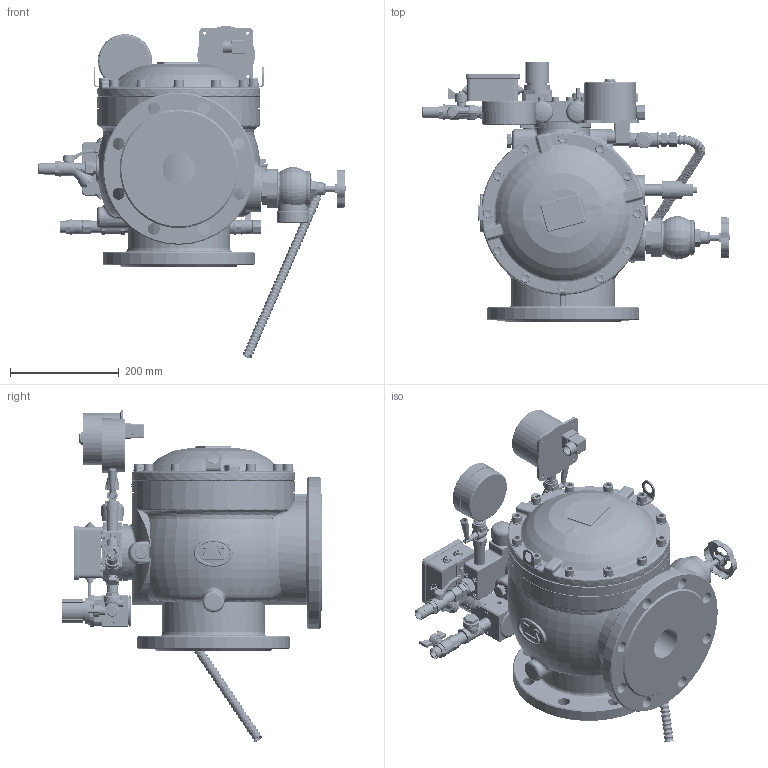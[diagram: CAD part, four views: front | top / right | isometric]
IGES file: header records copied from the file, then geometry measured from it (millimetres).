
Start section: File generated by T-FLEX CAD Version (null)
Global section: file name: 150.igs; native system: T-FLEX CAD; date: 211014.122208; units: millimetre
Bounding box: 564.75 x 478.8 x 610.64 mm (x, y, z)
Volume: 20584288.2 mm3; surface area: 2034568 mm2
Topology: 269 solids, 306 shells, 14395 faces, 35524 edges, 21393 vertices
Faces by surface type: plane 5123, cylinder 4537, revolution 1686, bspline 1373, cone 1056, sphere 620
Full cylindrical faces by diameter (mm): 49 x1
